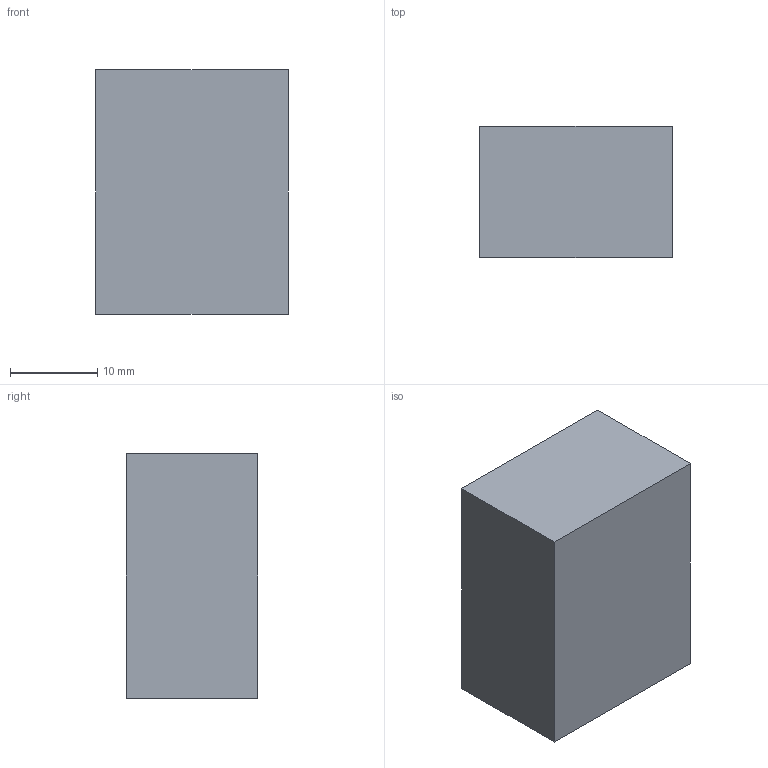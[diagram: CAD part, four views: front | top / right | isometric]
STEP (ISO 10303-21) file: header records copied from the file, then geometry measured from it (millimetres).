
FILE_DESCRIPTION(('Open CASCADE Model'),'2;1');
FILE_NAME('Open CASCADE Shape Model','2026-09-19T23:46:41',('Author'),( 'Open CASCADE'),'Open CASCADE STEP processor 7.9','Open CASCADE 7.9' ,'Unknown');
FILE_SCHEMA(('AUTOMOTIVE_DESIGN { 1 0 10303 214 1 1 1 1 }'));
Length unit declared in the file: millimetre
Products named in the file (1): Open CASCADE STEP translator 7.9 106
Bounding box: 22 x 15 x 28 mm (x, y, z)
Volume: 9240 mm3; surface area: 2732 mm2
Topology: 1 solids, 1 shells, 6 faces, 12 edges, 8 vertices
Faces by surface type: plane 6
Entity records: 322 total; most frequent: CARTESIAN_POINT 51, DIRECTION 50, LINE 36, VECTOR 36, ORIENTED_EDGE 24, PCURVE 24, DEFINITIONAL_REPRESENTATION 24, EDGE_CURVE 12
